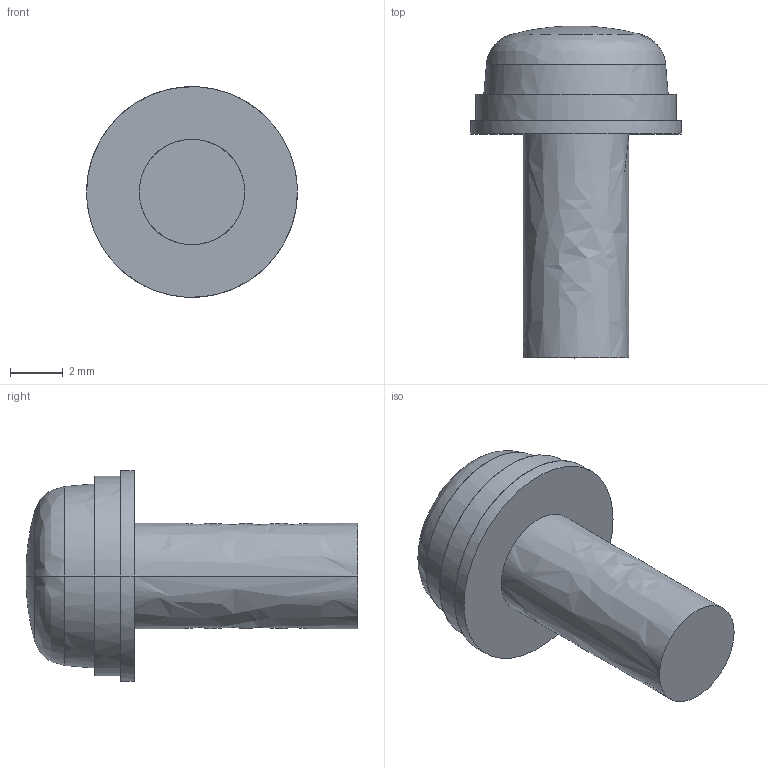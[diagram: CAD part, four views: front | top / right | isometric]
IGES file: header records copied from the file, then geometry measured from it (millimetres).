
Start section:  PTC IGES file: sw-pw-p-na-m4x10.igs
Global section: file name: sw-pw-p-na-m4x10.igs; native system: Creo Parametric by PTC Inc.; preprocessor: 2020184; author: VX25986; organization: Unknown; date: 20210323.200205; units: millimetre
Bounding box: 8 x 12.6 x 7.99 mm (x, y, z)
Surface area: 279.5 mm2 (no closed solid volume)
Topology: 0 solids, 0 shells, 16 faces, 62 edges, 60 vertices
Faces by surface type: bspline 16
